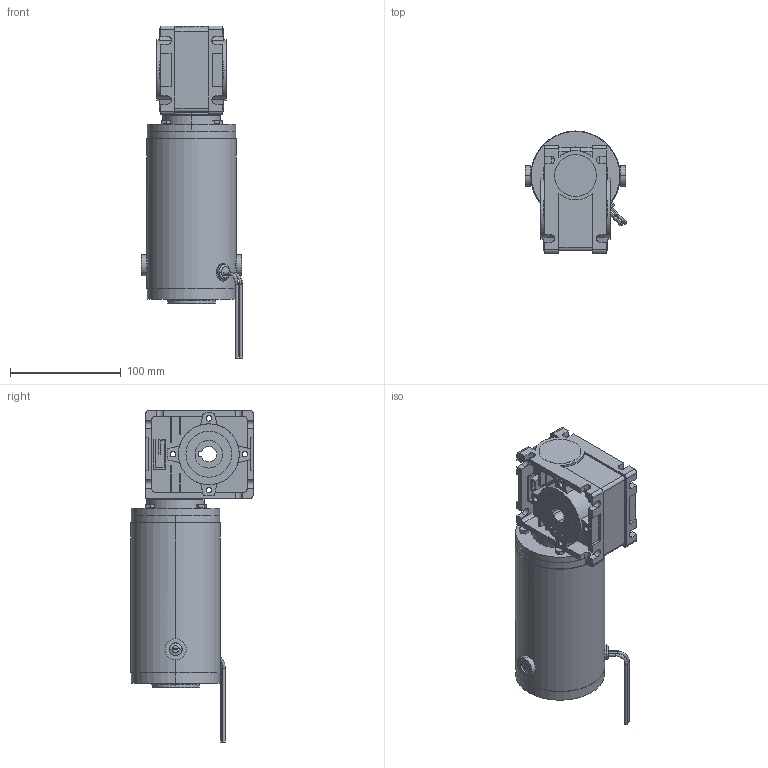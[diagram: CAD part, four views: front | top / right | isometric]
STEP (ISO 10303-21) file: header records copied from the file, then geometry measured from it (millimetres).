
FILE_DESCRIPTION (( 'STEP AP203' ), '1' );
FILE_NAME ('PM8014HV-RA3000T.STEP', '2008-06-30T16:43:45', ( 'eng-rjs' ), ( 'groschopp' ), 'SwSTEP 2.0', 'SolidWorks 2008', '' );
FILE_SCHEMA (( 'CONFIG_CONTROL_DESIGN' ));
Length unit declared in the file: inch
Products named in the file (1): PM8014HV-RA3000T
Bounding box: 91.35 x 110.51 x 300.23 mm (x, y, z)
Surface area: 126904.2 mm2 (no closed solid volume)
Topology: 0 solids, 26 shells, 448 faces, 1306 edges, 886 vertices
Faces by surface type: plane 254, cylinder 150, cone 31, torus 12, bspline 1
Entity records: 15312 total; most frequent: CARTESIAN_POINT 3197, DIRECTION 2568, ORIENTED_EDGE 2363, EDGE_CURVE 1306, VERTEX_POINT 886, AXIS2_PLACEMENT_3D 879, VECTOR 810, LINE 810
